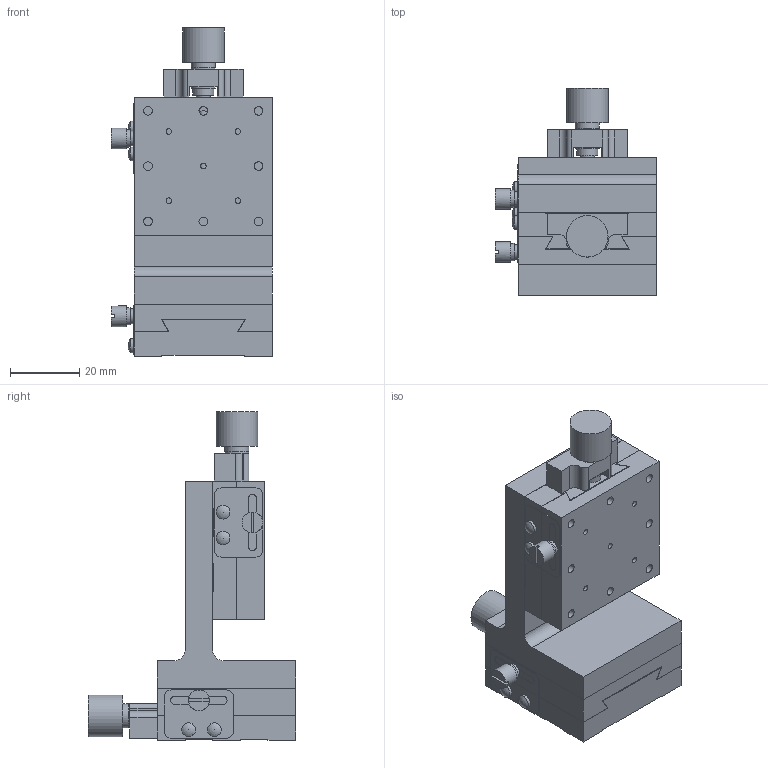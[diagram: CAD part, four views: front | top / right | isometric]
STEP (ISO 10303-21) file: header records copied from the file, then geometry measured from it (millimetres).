
FILE_DESCRIPTION( ( 'STEP AP203' ), '1' );
FILE_NAME( 'C:/3D-Trans/3D_B08-14+090717.step', '2009-07-17T06:44:36', ( ' ' ), ( ' ' ), 'XStep 1.0', ' ', ' ' );
FILE_SCHEMA( ( 'CONFIG_CONTROL_DESIGN' ) );
Length unit declared in the file: millimetre
Products named in the file (5): 1; 2; 3; 4; 5
Bounding box: 46.85 x 60 x 95 mm (x, y, z)
Volume: 77346.5 mm3; surface area: 36166 mm2
Topology: 5 solids, 9 shells, 346 faces, 948 edges, 638 vertices
Faces by surface type: plane 208, cylinder 132, sphere 4, cone 2
Full cylindrical faces by diameter (mm): 1.6 x10, 2 x2, 2.2 x2, 2.5 x36, 3 x8, 3.2 x4, 3.5 x8, 4 x6, 4.3 x2, 4.5 x4, 5 x2, 6 x4, 6.5 x8, 7 x8, 12 x2
Entity records: 10650 total; most frequent: CARTESIAN_POINT 2107, DIRECTION 1708, ORIENTED_EDGE 1528, EDGE_CURVE 764, AXIS2_PLACEMENT_3D 601, EDGE_LOOP 588, VERTEX_POINT 568, LINE 506
